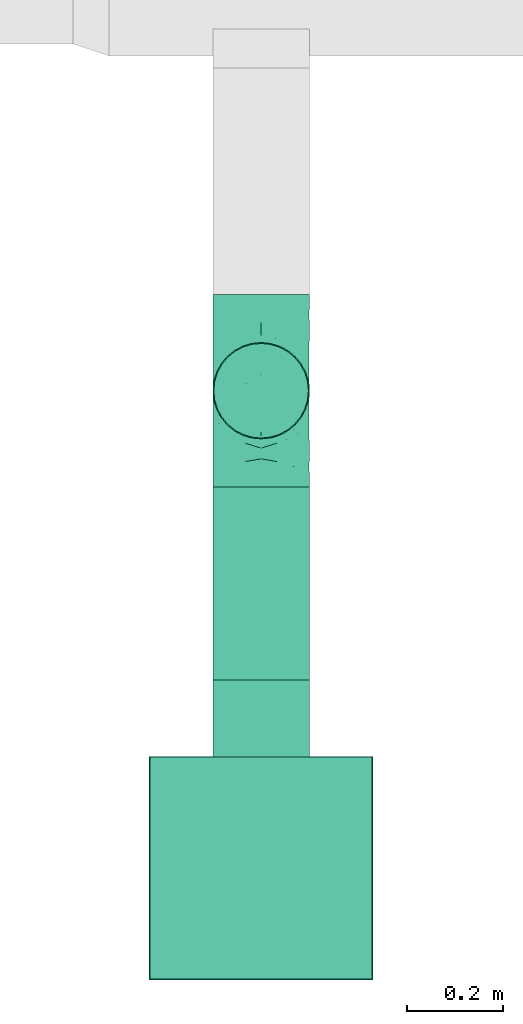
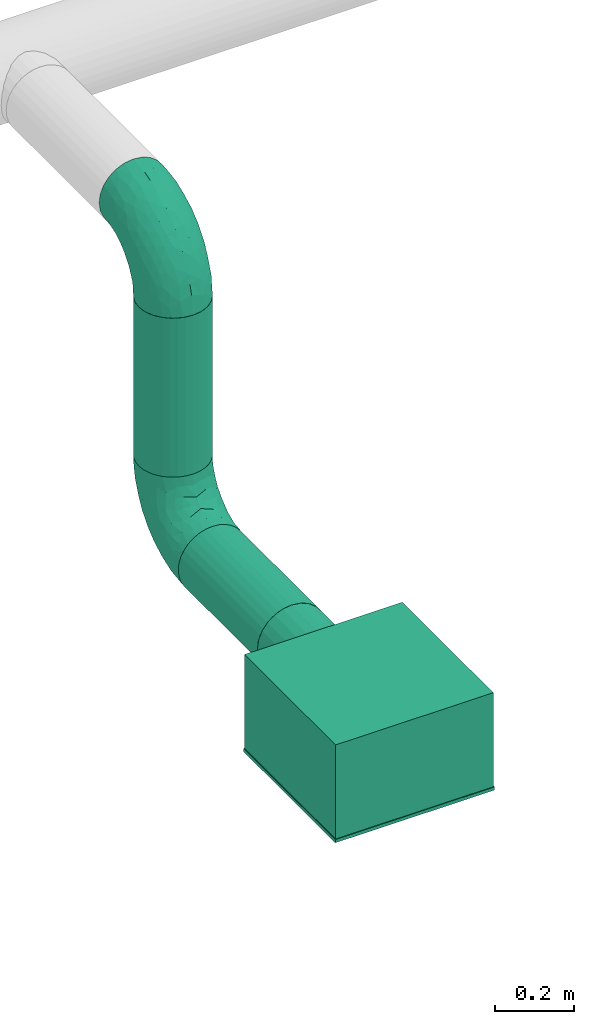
# One storey, part 7 of 31: 2 flow fittings, 2 flow segments, 1 flow terminal.
"""IFC2X3 building model written with IfcOpenShell, lengths in millimetres."""

from ifc_helpers import new_model, entity, si_unit, converted_unit, derived_unit, direction, frame, origin_with_axes, origin_2d_with_axis, place, context, subcontext, project, spatial, hollow_circle, extrude, open_shell, surface_model, source, transform, mapped, type_object, element, save


model = new_model("IFC2X3")

# Units and contexts
model_context = context("Model", 3, precision=0.01, world=frame((0.0, 4.29681676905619e-09, 0.0)), true_north=direction((4.01073788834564e-13, 1.0)))
plan_context = context("Plan", 3, precision=0.01, world=frame((0.0, 4.29681676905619e-09, 0.0)), true_north=direction((4.01073788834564e-13, 1.0)))
body_context = subcontext(model_context, "Body", "Model", "MODEL_VIEW")
ifc_project = project(units=[converted_unit("PLANEANGLEUNIT", "DEGREE", entity("IfcPositiveLengthMeasure", 0.0174532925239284), si_unit("PLANEANGLEUNIT", "RADIAN"), dimensions=[0, 0, 0, 0, 0, 0, 0]), si_unit("AREAUNIT", "SQUARE_METRE"), si_unit("LENGTHUNIT", "METRE", prefix="MILLI"), si_unit("MASSUNIT", "GRAM", prefix="KILO"), si_unit("POWERUNIT", "WATT"), si_unit("PRESSUREUNIT", "PASCAL", prefix="KILO"), si_unit("FORCEUNIT", "NEWTON", prefix="KILO"), si_unit("ELECTRICVOLTAGEUNIT", "VOLT"), si_unit("ELECTRICCURRENTUNIT", "AMPERE"), si_unit("THERMODYNAMICTEMPERATUREUNIT", "DEGREE_CELSIUS"), si_unit("TIMEUNIT", "SECOND"), si_unit("VOLUMEUNIT", "CUBIC_METRE"), derived_unit("LINEARVELOCITYUNIT", [(si_unit("LENGTHUNIT", "METRE"), 1), (si_unit("TIMEUNIT", "SECOND"), -1)]), derived_unit("VOLUMETRICFLOWRATEUNIT", [(si_unit("VOLUMEUNIT", "CUBIC_METRE"), 1), (si_unit("TIMEUNIT", "SECOND"), -1)]), derived_unit("THERMALTRANSMITTANCEUNIT", [(si_unit("POWERUNIT", "WATT"), 1), (si_unit("THERMODYNAMICTEMPERATUREUNIT", "KELVIN"), -1), (si_unit("AREAUNIT", "SQUARE_METRE"), -1)]), derived_unit("SOUNDPRESSUREUNIT", [(si_unit("PRESSUREUNIT", "PASCAL"), 1)])], contexts=[model_context, plan_context])

# Site, building, storey
site_placement = place(None, frame((0.0, -4.29681676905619e-09, 0.0), z_axis=(0.0, 0.0, 1.0), x_axis=(1.0, 0.0, 0.0)))
site = spatial("IfcSite", under=ifc_project, at=site_placement, CompositionType="ELEMENT")
building_placement = place(site_placement, frame((0.0, 4.29681676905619e-09, 0.0), z_axis=(0.0, 0.0, 1.0), x_axis=(1.0, 0.0, 0.0)))
building = spatial("IfcBuilding", under=site, at=building_placement, Name="mc-building", CompositionType="ELEMENT")
storey_placement = place(building_placement, frame((0.0, 0.0, 210900.0), z_axis=(0.0, 0.0, 1.0), x_axis=(1.0, 0.0, 0.0)))
storey = spatial("IfcBuildingStorey", under=building, at=storey_placement, Name="Nivå F", CompositionType="ELEMENT", Elevation=210900.0)

# Flow fittings
duct_fitting_type = type_object("IfcDuctFittingType", Name="magicirc_elbow_full_radius_001", PredefinedType="BEND")
shared_shape_1 = source(origin_with_axes(), body_context, "Body", "SurfaceModel", [
    surface_model("IfcShellBasedSurfaceModel", [(-200.0, 25.8819, -96.59259), (-200.0, 0.0, -100.0), (-200.0, 96.59259, -25.8819), (-200.0, 50.0, -86.60254), (-200.0, 70.71068, -70.71068), (-200.0, 86.60254, -50.0), (-200.0, 100.0, 0.0), (-200.0, -70.71068, -70.71068), (-200.0, -50.0, -86.60254), (-200.0, -25.8819, -96.59259), (-200.0, -86.60254, -50.0), (-200.0, -96.59259, -25.8819), (-200.0, -96.59259, 25.8819), (-200.0, -100.0, 0.0), (-200.0, 86.60254, 50.0), (-200.0, 96.59259, 25.8819), (-200.0, -50.0, 86.60254), (-200.0, 25.8819, 96.59259), (-200.0, 50.0, 86.60254), (-200.0, 70.71068, 70.71068), (-200.0, -86.60254, 50.0), (-200.0, -70.71068, 70.71068), (-200.0, -25.8819, 96.59259), (-200.0, 0.0, 100.0), (-25.8819, 200.0, -96.59259), (96.59259, 200.0, 25.8819), (0.0, 200.0, -100.0), (-70.71068, 200.0, -70.71068), (-50.0, 200.0, -86.60254), (-86.60254, 200.0, -50.0), (70.71068, 200.0, -70.71068), (25.8819, 200.0, -96.59259), (50.0, 200.0, -86.60254), (96.59259, 200.0, -25.8819), (86.60254, 200.0, -50.0), (100.0, 200.0, 0.0), (-96.59259, 200.0, -25.8819), (-100.0, 200.0, 0.0), (-96.59259, 200.0, 25.8819), (-86.60254, 200.0, 50.0), (-50.0, 200.0, 86.60254), (-25.8819, 200.0, 96.59259), (-70.71068, 200.0, 70.71068), (50.0, 200.0, 86.60254), (70.71068, 200.0, 70.71068), (86.60254, 200.0, 50.0), (25.8819, 200.0, 96.59259), (0.0, 200.0, 100.0), (-170.28345, -80.453, 57.20341), (-151.30505, -62.14272, 74.57098), (-141.47291, -94.23558, 0.0), (-152.48501, -91.13434, 31.26682), (-175.16033, -97.5535, 0.0), (49.44088, 33.32893, 0.0), (56.65771, 47.69157, 17.5513), (30.78646, 10.59845, 0.0), (-115.72747, -62.79147, 65.02361), (-110.24866, -47.46346, 77.46704), (-131.78251, -77.03572, 52.17296), (-155.84565, 81.73243, 67.52503), (-165.38682, 59.81194, 83.11685), (-153.53621, -15.46231, 97.89391), (-99.34826, -9.37473, 94.63603), (-109.04028, 19.17637, 99.9709), (-11.41001, 147.58509, 99.90915), (-66.65717, -62.98288, 31.65851), (-19.65477, -37.28433, 19.69829), (-42.80044, -46.52394, 38.2888), (-76.76667, -58.58513, 50.26593), (-107.75087, -80.71677, 29.70656), (-170.73585, -40.65955, 90.5511), (-172.81551, 101.70087, 19.84455), (-146.92494, 108.70969, 32.98808), (-141.22148, 119.0983, 0.0), (-63.14521, 144.11081, 85.31109), (-80.51529, 161.84448, 66.62709), (-89.41257, 123.59035, 75.49114), (-59.28706, 175.69502, 82.02298), (-159.40173, 10.55746, 99.80411), (77.16386, 85.19497, 0.0), (62.56216, 67.38452, 33.69402), (-101.70087, 172.81551, 19.84455), (-93.96462, 171.01, 43.43771), (-171.01, 93.96462, 43.43771), (-151.20277, 37.27353, 95.35782), (-100.76094, 141.8163, 52.73949), (-123.065, 123.065, 41.02461), (-115.71118, 115.71117, 58.92154), (-108.70969, 146.92494, 32.98808), (-169.09831, 104.89435, 0.0), (-126.3807, 68.32629, 87.09158), (-3.53309, 67.51081, 92.91692), (-29.40722, 29.40721, 91.09367), (0.78973, 37.96478, 81.45071), (-60.00062, -0.36077, 89.58959), (-67.88209, 21.58789, 97.54896), (62.32031, 154.13138, 74.86163), (-141.8163, 100.76094, 52.73949), (91.13434, 152.48501, 31.26682), (80.453, 170.28345, 57.20341), (-18.49849, -12.30744, 60.90175), (8.80323, 19.6267, 65.08263), (-25.42255, 3.46809, 77.76258), (-74.03921, 114.7783, 87.77152), (-87.24231, 87.48345, 91.33971), (-52.29396, 97.96814, 97.88047), (97.5535, 175.16033, 0.0), (15.66986, 158.34417, 98.04921), (39.67143, 143.40046, 88.65468), (-104.89435, 169.09831, 0.0), (-119.0983, 141.22148, 0.0), (-79.31604, 55.69606, 99.29154), (50.31225, 117.34231, 77.16335), (77.03572, 131.78251, 52.17296), (-113.91527, 94.9934, 76.65605), (64.93177, 92.97178, 51.47516), (47.72556, 81.69016, 66.67609), (40.01044, 43.97718, 50.57869), (-17.45546, -26.87288, 41.03287), (-127.86769, 127.86769, 19.95139), (-59.26195, -63.30237, 0.0), (-33.32893, -49.44088, 0.0), (-15.13235, 108.44666, 99.8016), (9.03102, 110.97634, 96.23014), (-35.35458, 66.6809, 99.29493), (-36.40308, 160.4143, 94.8486), (-32.26105, 126.83648, 98.54453), (5.63455, -13.55537, 26.35365), (8.74012, 0.17058, 45.65263), (46.65777, 40.2329, 34.44568), (80.66195, 107.48302, 29.60457), (85.69972, 113.33393, 0.0), (28.17336, 90.6004, 84.77214), (-103.20436, 61.65595, 95.02282), (-132.43349, -38.40548, 87.83865), (-113.33393, -85.69972, 0.0), (-87.1495, -28.94235, 83.35483), (-47.7214, -39.47514, 54.58142), (-52.3084, 125.73797, 93.79051), (25.86889, 52.68176, 71.74074), (63.30237, 59.26195, 0.0), (94.23558, 141.47291, 0.0), (29.54521, 14.24018, 30.32032), (-85.19497, -77.16386, 0.0), (-50.98503, -24.63183, 71.83876), (-81.69017, -47.72556, 66.67609), (-10.59845, -30.78646, 0.0), (12.13203, -12.13203, 0.0), (-160.4143, 36.40307, -94.8486), (-126.83648, 32.26105, -98.54453), (-147.58509, 11.41001, -99.90915), (-59.81194, 165.3868, -83.11686), (-158.34417, -15.66986, -98.0492), (-110.97634, -9.03102, -96.23014), (12.30745, 18.4985, -60.90175), (-19.62669, -8.80321, -65.08265), (-3.46809, 25.42255, -77.76258), (-114.7783, 74.03921, -87.77153), (-87.48346, 87.2423, -91.33971), (-97.96814, 52.29396, -97.88047), (-172.81551, 101.70087, -19.84455), (13.55537, -5.63454, -26.35364), (-0.17055, -8.74011, -45.6526), (26.87289, 17.45547, -41.03286), (-146.92494, 108.70969, -32.98808), (-47.69157, -56.65771, -17.5513), (-123.06501, 123.065, -41.02461), (-127.86769, 127.86769, -19.95139), (-108.70969, 146.92494, -32.98808), (-175.69502, 59.28706, -82.02298), (-161.84448, 80.51529, -66.62709), (-144.11081, 63.14521, -85.31109), (62.98288, 66.65718, -31.65851), (-81.73243, 155.84565, -67.52503), (-141.8163, 100.76093, -52.73949), (-171.01, 93.96462, -43.43771), (-55.69606, 79.31604, -99.29154), (-66.68089, 35.35458, -99.29493), (-152.48501, -91.13434, -31.26682), (-170.28345, -80.45301, -57.20341), (-92.97178, -64.93177, -51.47516), (-81.69017, -47.72556, -66.67608), (-43.97716, -40.01043, -50.57869), (-10.55746, 159.40173, -99.80411), (15.46231, 153.53621, -97.89391), (-154.13138, -62.32031, -74.86163), (-143.40046, -39.67143, -88.65468), (-37.27353, 151.20276, -95.35782), (-107.48302, -80.66195, -29.60457), (0.36078, 60.00061, -89.58959), (-29.40721, 29.40721, -91.09366), (-21.58789, 67.88208, -97.54896), (-100.76094, 141.8163, -52.73949), (-93.96462, 171.01, -43.43771), (-101.70087, 172.81551, -19.84455), (-19.17637, 109.04027, -99.9709), (-123.59035, 89.41257, -75.49114), (62.14272, 151.30505, -74.57098), (40.65955, 170.73585, -90.5511), (46.52395, 42.80044, -38.28881), (37.28435, 19.6548, -19.69829), (-68.3263, 126.38069, -87.09158), (-67.51081, 3.53309, -92.91692), (-37.96476, -0.78971, -81.45071), (58.58512, 76.76664, -50.26592), (-67.38452, -62.56216, -33.69402), (80.45301, 170.28345, -57.20341), (80.71677, 107.75087, -29.70656), (38.40548, 132.43348, -87.83865), (62.79147, 115.72747, -65.02361), (47.46347, 110.24866, -77.46703), (91.13434, 152.48501, -31.26682), (-40.2329, -46.65777, -34.44568), (-90.60041, -28.17337, -84.77214), (77.03572, 131.78251, -52.17296), (9.37473, 99.34825, -94.63603), (-117.34231, -50.31225, -77.16335), (-131.78251, -77.03572, -52.17296), (-94.99341, 113.91526, -76.65605), (-108.44666, 15.13234, -99.8016), (-61.65596, 103.20434, -95.02282), (28.94235, 87.1495, -83.35483), (39.47513, 47.72139, -54.58143), (-125.73797, 52.30839, -93.79051), (-52.68177, -25.86889, -71.74075), (-115.71118, 115.71117, -58.92154), (-14.24018, -29.54521, -30.32033), (24.63182, 50.98504, -71.83876), (47.72556, 81.69017, -66.67609)], [open_shell([[[0, 1, 2]], [[3, 0, 4]], [[2, 5, 4]], [[0, 2, 4]], [[6, 1, 7]], [[8, 7, 9]], [[7, 1, 9]], [[10, 11, 7]], [[12, 11, 13]], [[12, 7, 11]], [[2, 1, 6]], [[14, 15, 6]], [[16, 14, 7]], [[14, 17, 18]], [[19, 14, 18]], [[17, 14, 16]], [[20, 21, 12]], [[16, 12, 21]], [[16, 22, 17]], [[16, 7, 12]], [[17, 22, 23]], [[14, 6, 7]], [[24, 25, 26]], [[27, 24, 28]], [[25, 27, 29]], [[24, 27, 25]], [[30, 26, 25]], [[31, 30, 32]], [[31, 26, 30]], [[30, 33, 34]], [[35, 33, 25]], [[33, 30, 25]], [[25, 29, 36]], [[37, 38, 39]], [[25, 37, 39]], [[40, 41, 39]], [[40, 39, 42]], [[43, 39, 41]], [[25, 44, 45]], [[44, 25, 43]], [[41, 46, 43]], [[43, 25, 39]], [[47, 46, 41]], [[37, 25, 36]], [[21, 48, 49]], [[50, 51, 52]], [[53, 54, 55]], [[56, 57, 49]], [[48, 51, 58]], [[59, 19, 60]], [[61, 62, 63]], [[47, 41, 64]], [[65, 66, 67]], [[68, 69, 65]], [[16, 21, 49]], [[19, 18, 60]], [[16, 70, 22]], [[71, 72, 73]], [[74, 75, 76]], [[77, 40, 42]], [[19, 59, 14]], [[23, 78, 17]], [[54, 79, 80]], [[38, 81, 82]], [[70, 61, 22]], [[21, 20, 48]], [[83, 15, 14]], [[83, 72, 71]], [[84, 18, 17]], [[6, 15, 71]], [[85, 86, 87]], [[85, 82, 88]], [[71, 73, 89]], [[22, 61, 23]], [[90, 60, 84]], [[91, 92, 93]], [[65, 67, 68]], [[94, 92, 95]], [[43, 96, 44]], [[97, 72, 83]], [[25, 45, 98]], [[44, 99, 45]], [[75, 42, 39]], [[100, 101, 102]], [[103, 104, 105]], [[98, 106, 25]], [[46, 107, 108]], [[108, 96, 43]], [[109, 110, 81]], [[104, 111, 105]], [[112, 113, 96]], [[98, 45, 99]], [[114, 59, 90]], [[108, 43, 46]], [[115, 116, 117]], [[88, 81, 110]], [[67, 66, 118]], [[110, 73, 119]], [[109, 81, 37]], [[95, 111, 63]], [[120, 121, 65]], [[86, 119, 72]], [[122, 123, 64]], [[111, 124, 105]], [[75, 74, 77]], [[64, 125, 126]], [[127, 128, 118]], [[80, 129, 54]], [[41, 40, 125]], [[125, 64, 41]], [[123, 107, 64]], [[98, 130, 131]], [[132, 108, 123]], [[47, 107, 46]], [[78, 23, 61]], [[20, 12, 51]], [[133, 63, 111]], [[130, 98, 113]], [[115, 117, 80]], [[82, 39, 38]], [[75, 85, 76]], [[62, 61, 134]], [[78, 63, 84]], [[56, 49, 58]], [[70, 49, 134]], [[51, 12, 52]], [[51, 135, 69]], [[115, 130, 113]], [[82, 81, 88]], [[62, 136, 94]], [[62, 94, 95]], [[67, 118, 137]], [[69, 58, 51]], [[77, 125, 40]], [[126, 138, 105]], [[112, 96, 108]], [[99, 96, 113]], [[117, 116, 139]], [[66, 127, 118]], [[92, 102, 93]], [[92, 94, 102]], [[63, 78, 61]], [[84, 17, 78]], [[64, 107, 47]], [[108, 107, 123]], [[84, 60, 18]], [[59, 60, 90]], [[87, 114, 76]], [[104, 103, 114]], [[114, 87, 97]], [[104, 114, 90]], [[63, 133, 84]], [[138, 103, 105]], [[90, 133, 104]], [[63, 62, 95]], [[91, 124, 92]], [[122, 64, 126]], [[92, 124, 95]], [[111, 95, 124]], [[140, 79, 54]], [[131, 141, 98]], [[88, 86, 85]], [[75, 39, 82]], [[76, 85, 87]], [[75, 82, 85]], [[14, 59, 83]], [[97, 87, 86]], [[83, 59, 97]], [[114, 97, 59]], [[117, 142, 129]], [[65, 69, 143]], [[136, 62, 134]], [[102, 101, 93]], [[144, 94, 136]], [[137, 100, 144]], [[57, 136, 134]], [[136, 145, 144]], [[101, 139, 93]], [[91, 132, 123]], [[93, 139, 132]], [[91, 123, 122]], [[93, 132, 91]], [[132, 116, 112]], [[144, 100, 102]], [[128, 100, 118]], [[144, 102, 94]], [[137, 144, 145]], [[137, 145, 68]], [[100, 137, 118]], [[56, 68, 145]], [[69, 68, 58]], [[101, 128, 117]], [[132, 139, 116]], [[101, 117, 139]], [[129, 80, 117]], [[68, 67, 137]], [[65, 143, 120]], [[127, 146, 147]], [[55, 127, 147]], [[66, 146, 127]], [[128, 127, 142]], [[117, 128, 142]], [[100, 128, 101]], [[138, 125, 74]], [[122, 105, 124]], [[105, 122, 126]], [[91, 122, 124]], [[125, 138, 126]], [[138, 74, 103]], [[74, 76, 103]], [[114, 103, 76]], [[132, 112, 108]], [[112, 116, 115]], [[12, 13, 52]], [[106, 98, 141]], [[106, 35, 25]], [[37, 81, 38]], [[88, 110, 119]], [[97, 86, 72]], [[72, 119, 73]], [[88, 119, 86]], [[6, 71, 89]], [[83, 71, 15]], [[75, 77, 42]], [[125, 77, 74]], [[49, 70, 16]], [[61, 70, 134]], [[51, 48, 20]], [[49, 48, 58]], [[96, 99, 44]], [[98, 99, 113]], [[80, 79, 130]], [[130, 115, 80]], [[112, 115, 113]], [[68, 56, 58]], [[57, 56, 145]], [[136, 57, 145]], [[49, 57, 134]], [[65, 121, 66]], [[127, 55, 142]], [[84, 133, 90]], [[111, 104, 133]], [[130, 79, 131]], [[135, 51, 50]], [[135, 143, 69]], [[142, 55, 54]], [[142, 54, 129]], [[140, 54, 53]], [[66, 121, 146]], [[148, 149, 150]], [[28, 151, 27]], [[152, 150, 153]], [[154, 155, 156]], [[150, 0, 148]], [[157, 158, 159]], [[89, 160, 6]], [[161, 162, 163]], [[164, 160, 73]], [[121, 165, 146]], [[166, 167, 168]], [[169, 170, 171]], [[140, 53, 172]], [[27, 173, 29]], [[174, 175, 164]], [[176, 177, 159]], [[178, 10, 179]], [[180, 181, 182]], [[178, 52, 11]], [[183, 26, 184]], [[185, 8, 186]], [[0, 3, 148]], [[9, 186, 8]], [[187, 28, 24]], [[31, 184, 26]], [[178, 11, 10]], [[179, 10, 7]], [[178, 188, 135]], [[7, 8, 185]], [[152, 186, 9]], [[189, 190, 191]], [[158, 176, 159]], [[167, 73, 110]], [[192, 168, 193]], [[166, 168, 192]], [[193, 36, 29]], [[36, 194, 37]], [[191, 176, 195]], [[171, 170, 196]], [[194, 193, 168]], [[160, 175, 2]], [[197, 32, 30]], [[198, 184, 31]], [[173, 27, 151]], [[169, 3, 4]], [[26, 183, 24]], [[199, 200, 163]], [[187, 201, 151]], [[202, 190, 203]], [[31, 32, 198]], [[199, 172, 200]], [[172, 199, 204]], [[165, 143, 205]], [[30, 34, 206]], [[207, 172, 204]], [[89, 73, 160]], [[198, 197, 208]], [[9, 1, 152]], [[209, 210, 197]], [[170, 4, 5]], [[211, 106, 141]], [[205, 212, 165]], [[213, 186, 153]], [[211, 214, 206]], [[34, 33, 211]], [[215, 195, 184]], [[194, 168, 110]], [[1, 0, 150]], [[216, 217, 185]], [[194, 110, 109]], [[218, 173, 201]], [[219, 153, 150]], [[220, 195, 176]], [[188, 178, 217]], [[180, 182, 205]], [[175, 5, 2]], [[170, 174, 196]], [[206, 197, 30]], [[209, 197, 214]], [[215, 184, 208]], [[183, 195, 187]], [[211, 33, 106]], [[211, 131, 207]], [[180, 188, 217]], [[33, 35, 106]], [[215, 221, 189]], [[215, 189, 191]], [[199, 163, 222]], [[207, 214, 211]], [[169, 148, 3]], [[149, 223, 159]], [[216, 185, 186]], [[179, 185, 217]], [[182, 181, 224]], [[200, 161, 163]], [[190, 156, 203]], [[190, 189, 156]], [[195, 183, 184]], [[187, 24, 183]], [[150, 152, 1]], [[186, 152, 153]], [[187, 151, 28]], [[173, 151, 201]], [[225, 218, 196]], [[158, 157, 218]], [[218, 225, 192]], [[158, 218, 201]], [[195, 220, 187]], [[223, 157, 159]], [[201, 220, 158]], [[195, 215, 191]], [[202, 177, 190]], [[219, 150, 149]], [[190, 177, 191]], [[176, 191, 177]], [[120, 143, 165]], [[135, 50, 178]], [[164, 166, 174]], [[170, 5, 175]], [[196, 174, 225]], [[170, 175, 174]], [[29, 173, 193]], [[192, 225, 166]], [[193, 173, 192]], [[218, 192, 173]], [[182, 226, 212]], [[172, 207, 79]], [[221, 215, 208]], [[156, 155, 203]], [[227, 189, 221]], [[222, 154, 227]], [[210, 221, 208]], [[221, 228, 227]], [[155, 224, 203]], [[202, 213, 153]], [[203, 224, 213]], [[202, 153, 219]], [[203, 213, 202]], [[213, 181, 216]], [[227, 154, 156]], [[162, 154, 163]], [[227, 156, 189]], [[222, 227, 228]], [[222, 228, 204]], [[154, 222, 163]], [[209, 204, 228]], [[207, 204, 214]], [[155, 162, 182]], [[213, 224, 181]], [[155, 182, 224]], [[212, 205, 182]], [[204, 199, 222]], [[172, 79, 140]], [[161, 55, 147]], [[146, 161, 147]], [[200, 55, 161]], [[162, 161, 226]], [[182, 162, 226]], [[154, 162, 155]], [[223, 148, 171]], [[219, 159, 177]], [[159, 219, 149]], [[202, 219, 177]], [[148, 223, 149]], [[223, 171, 157]], [[171, 196, 157]], [[218, 157, 196]], [[213, 216, 186]], [[216, 181, 180]], [[52, 178, 50]], [[52, 13, 11]], [[175, 160, 164]], [[6, 160, 2]], [[174, 166, 225]], [[167, 164, 73]], [[168, 167, 110]], [[164, 167, 166]], [[37, 194, 109]], [[193, 194, 36]], [[170, 169, 4]], [[148, 169, 171]], [[197, 198, 32]], [[184, 198, 208]], [[211, 206, 34]], [[197, 206, 214]], [[185, 179, 7]], [[178, 179, 217]], [[205, 143, 188]], [[188, 180, 205]], [[216, 180, 217]], [[204, 209, 214]], [[210, 209, 228]], [[221, 210, 228]], [[197, 210, 208]], [[172, 53, 200]], [[161, 146, 226]], [[187, 220, 201]], [[176, 158, 220]], [[188, 143, 135]], [[131, 211, 141]], [[131, 79, 207]], [[226, 146, 165]], [[226, 165, 212]], [[120, 165, 121]], [[200, 53, 55]]])]),
])
for number, where, z_axis, x_axis, name in (
    (1, (721702.17013, 436585.99129, 2965.0), (1.0, 0.0, 0.0), (0.0, 1.0, 0.0), "magicirc_elbow_full_radius_001"),
    (2, (721702.17013, 436585.99129, 3855.0), (-1.0, 0.0, 0.0), (0.0, 0.0, 1.0), "magicirc_elbow_full_radius_001"),
):
    element("IfcFlowFitting", number, at=place(storey_placement, frame(where, z_axis=z_axis, x_axis=x_axis)), inside=storey, type_object=duct_fitting_type, Name=name, context=body_context, shape_type="MappedRepresentation", body=[
        mapped(shared_shape_1, transform((0.0, 0.0, 0.0), scale=1.0)),
    ])

# Flow segments
duct_segment_type = type_object("IfcDuctSegmentType", Name="KK001T - Spiro kanaler, Forsinket stål", PredefinedType="RIGIDSEGMENT")
shared_shape_2 = source(origin_with_axes(), body_context, "Body", "SweptSolid", [
    extrude(hollow_circle(Radius=100.0, WallThickness=2.0, at=origin_2d_with_axis()), frame((0.0, 0.0, 0.0), z_axis=(1.0, 0.0, 0.0), x_axis=(0.0, 1.0, 0.0)), (0.0, 0.0, 1.0), 400.0),
])
flow_segment_1_placement = place(storey_placement, frame((721702.17013, 435985.99129, 2965.0), z_axis=(0.0, 0.0, 1.0), x_axis=(0.0, 1.0, 0.0)))
element("IfcFlowSegment", 3, at=flow_segment_1_placement, inside=storey, type_object=duct_segment_type, Name="KK001T - Spiro kanaler, Forsinket stål", context=body_context, shape_type="MappedRepresentation", body=[
    mapped(shared_shape_2, transform((0.0, 0.0, 0.0), scale=1.0)),
])
shared_shape_3 = source(origin_with_axes(), body_context, "Body", "SweptSolid", [
    extrude(hollow_circle(Radius=100.0, WallThickness=2.0, at=origin_2d_with_axis()), frame((0.0, 0.0, 0.0), z_axis=(1.0, 0.0, 0.0), x_axis=(0.0, 1.0, 0.0)), (0.0, 0.0, 1.0), 490.0),
])
flow_segment_2_placement = place(storey_placement, frame((721702.17013, 436585.99129, 3165.0), z_axis=(0.0, -1.0, 0.0), x_axis=(0.0, 0.0, 1.0)))
element("IfcFlowSegment", 4, at=flow_segment_2_placement, inside=storey, type_object=duct_segment_type, Name="KK001T - Spiro kanaler, Forsinket stål", context=body_context, shape_type="MappedRepresentation", body=[
    mapped(shared_shape_3, transform((0.0, 0.0, 0.0), scale=1.0)),
])

# Flow terminal
air_terminal_type = type_object("IfcAirTerminalType", Name="NS19-H-S-2-200 - 4-way", PredefinedType="NOTDEFINED")
shared_shape_4 = source(origin_with_axes(), body_context, "Body", "SurfaceModel", [
    surface_model("IfcShellBasedSurfaceModel", [(-231.99999, 231.99999, 0.0), (-231.99999, -231.99999, 0.0), (231.99999, -231.99999, 0.0), (231.99999, 231.99999, 0.0), (231.99999, 231.99999, -10.0), (231.99999, -231.99999, -10.0), (-231.99999, -231.99999, -10.0), (-231.99999, 231.99999, -10.0), (-230.0, 230.0, 289.99999), (-230.0, -230.0, 289.99999), (230.0, -230.0, 289.99999), (230.0, 230.0, 289.99999), (230.0, 230.0, 0.0), (230.0, -230.0, 0.0), (-230.0, -230.0, 0.0), (-230.0, 230.0, 0.0), (-230.0, 50.0, 78.39746), (-230.0, 70.71068, 94.28932), (-230.0, 49.9, 78.57067), (-230.0, 25.83014, 68.6006), (-230.0, 0.0, 65.2), (-230.0, 25.8819, 68.40742), (-230.0, 0.0, 65.0), (-230.0, 70.56926, 94.43075), (-230.0, 96.59259, 139.1181), (-230.0, 99.8, 164.99999), (-230.0, 96.39939, 139.16986), (-230.0, 100.0, 164.99999), (-230.0, 86.60254, 115.0), (-230.0, 86.42934, 115.1), (-230.0, -25.83014, 68.6006), (-230.0, -25.8819, 68.40742), (-230.0, -49.9, 78.57067), (-230.0, -70.71068, 94.28932), (-230.0, -50.0, 78.39746), (-230.0, -70.56926, 94.43075), (-230.0, -86.42934, 115.1), (-230.0, -86.60254, 115.0), (-230.0, -96.39939, 139.16986), (-230.0, -96.59259, 139.1181), (-230.0, -99.8, 164.99999), (-230.0, -100.0, 164.99999), (-230.0, 96.59259, 190.8819), (-230.0, 96.39939, 190.83014), (-230.0, 86.42934, 214.9), (-230.0, 86.60254, 214.99999), (-230.0, 70.56926, 235.56925), (-230.0, 70.71068, 235.71069), (-230.0, 50.0, 251.60254), (-230.0, 49.9, 251.42933), (-230.0, 25.83014, 261.3994), (-230.0, 25.8819, 261.59259), (-230.0, 0.0, 264.80001), (-230.0, 0.0, 264.99999), (-230.0, -86.60254, 214.99999), (-230.0, -86.42934, 214.9), (-230.0, -70.71068, 235.71069), (-230.0, -70.56926, 235.56925), (-230.0, -96.59259, 190.8819), (-230.0, -96.39939, 190.83014), (-230.0, -25.83014, 261.3994), (-230.0, -25.8819, 261.59259), (-230.0, -49.9, 251.42933), (-230.0, -50.0, 251.60254), (-390.0, 50.0, 251.60254), (-390.0, 70.71068, 235.71069), (-390.0, 49.9, 251.42933), (-390.0, 25.83014, 261.3994), (-390.0, 0.0, 264.80001), (-390.0, 25.8819, 261.59259), (-390.0, 0.0, 264.99999), (-390.0, 70.56926, 235.56925), (-390.0, 96.59259, 190.8819), (-390.0, 99.8, 164.99999), (-390.0, 96.39939, 190.83014), (-390.0, 100.0, 164.99999), (-390.0, 86.60254, 214.99999), (-390.0, 86.42934, 214.9), (-390.0, -25.83014, 261.3994), (-390.0, -25.8819, 261.59259), (-390.0, -49.9, 251.42933), (-390.0, -70.71068, 235.71069), (-390.0, -50.0, 251.60254), (-390.0, -70.56926, 235.56925), (-390.0, -86.42934, 214.9), (-390.0, -86.60254, 214.99999), (-390.0, -96.39939, 190.83014), (-390.0, -96.59259, 190.8819), (-390.0, -99.8, 164.99999), (-390.0, -100.0, 164.99999), (-390.0, 96.59259, 139.1181), (-390.0, 96.39939, 139.16986), (-390.0, 86.42934, 115.1), (-390.0, 86.60254, 115.0), (-390.0, 70.56926, 94.43075), (-390.0, 70.71068, 94.28932), (-390.0, 50.0, 78.39746), (-390.0, 49.9, 78.57067), (-390.0, 25.83014, 68.6006), (-390.0, 25.8819, 68.40742), (-390.0, 0.0, 65.2), (-390.0, 0.0, 65.0), (-390.0, -86.60254, 115.0), (-390.0, -86.42934, 115.1), (-390.0, -70.71068, 94.28932), (-390.0, -70.56926, 94.43075), (-390.0, -96.59259, 139.1181), (-390.0, -96.39939, 139.16986), (-390.0, -25.83014, 68.6006), (-390.0, -25.8819, 68.40742), (-390.0, -49.9, 78.57067), (-390.0, -50.0, 78.39746)], [open_shell([[[0, 1, 2]], [[2, 3, 0]], [[4, 5, 6]], [[6, 7, 4]], [[2, 1, 6]], [[6, 5, 2]], [[3, 2, 5]], [[5, 4, 3]], [[0, 3, 4]], [[4, 7, 0]], [[1, 0, 7]], [[7, 6, 1]], [[8, 9, 10]], [[10, 11, 8]], [[12, 13, 14]], [[14, 15, 12]], [[10, 9, 13]], [[14, 13, 9]], [[11, 10, 12]], [[13, 12, 10]], [[8, 11, 15]], [[12, 15, 11]], [[9, 8, 14]], [[15, 14, 8]], [[16, 17, 18]], [[16, 18, 19]], [[20, 21, 19]], [[21, 20, 22]], [[19, 21, 16]], [[18, 17, 23]], [[24, 25, 26]], [[25, 24, 27]], [[24, 26, 28]], [[23, 28, 29]], [[28, 23, 17]], [[29, 28, 26]], [[22, 30, 31]], [[31, 30, 32]], [[33, 34, 35]], [[32, 34, 31]], [[32, 35, 34]], [[22, 20, 30]], [[36, 37, 33]], [[37, 36, 38]], [[36, 33, 35]], [[39, 38, 40]], [[38, 39, 37]], [[39, 40, 41]], [[27, 42, 43]], [[43, 42, 44]], [[44, 45, 46]], [[45, 44, 42]], [[46, 45, 47]], [[47, 48, 49]], [[49, 48, 50]], [[50, 51, 52]], [[51, 50, 48]], [[52, 51, 53]], [[49, 46, 47]], [[54, 55, 56]], [[56, 55, 57]], [[55, 54, 58]], [[41, 59, 58]], [[58, 59, 55]], [[41, 40, 59]], [[60, 53, 61]], [[60, 61, 62]], [[57, 63, 56]], [[57, 62, 63]], [[63, 62, 61]], [[52, 53, 60]], [[43, 25, 27]], [[64, 65, 66]], [[64, 66, 67]], [[68, 69, 67]], [[69, 68, 70]], [[67, 69, 64]], [[66, 65, 71]], [[72, 73, 74]], [[73, 72, 75]], [[72, 74, 76]], [[71, 76, 77]], [[76, 71, 65]], [[77, 76, 74]], [[70, 78, 79]], [[79, 78, 80]], [[81, 82, 83]], [[80, 82, 79]], [[80, 83, 82]], [[70, 68, 78]], [[84, 85, 81]], [[85, 84, 86]], [[84, 81, 83]], [[87, 86, 88]], [[86, 87, 85]], [[87, 88, 89]], [[75, 90, 91]], [[91, 90, 92]], [[92, 93, 94]], [[93, 92, 90]], [[94, 93, 95]], [[95, 96, 97]], [[97, 96, 98]], [[98, 99, 100]], [[99, 98, 96]], [[100, 99, 101]], [[97, 94, 95]], [[102, 103, 104]], [[104, 103, 105]], [[103, 102, 106]], [[89, 107, 106]], [[106, 107, 103]], [[89, 88, 107]], [[108, 101, 109]], [[108, 109, 110]], [[105, 111, 104]], [[105, 110, 111]], [[111, 110, 109]], [[100, 101, 108]], [[91, 73, 75]], [[39, 106, 102]], [[104, 37, 102]], [[34, 111, 109]], [[104, 111, 33]], [[31, 109, 101]], [[106, 41, 89]], [[106, 39, 41]], [[102, 37, 39]], [[104, 33, 37]], [[34, 33, 111]], [[109, 31, 34]], [[101, 22, 31]], [[21, 99, 96]], [[95, 16, 96]], [[28, 93, 90]], [[95, 93, 17]], [[24, 90, 75]], [[99, 21, 22]], [[96, 16, 21]], [[95, 17, 16]], [[93, 28, 17]], [[24, 28, 90]], [[75, 27, 24]], [[99, 22, 101]], [[75, 72, 42]], [[48, 64, 69]], [[64, 47, 65]], [[51, 69, 70]], [[72, 45, 42]], [[42, 27, 75]], [[76, 47, 45]], [[76, 65, 47]], [[47, 64, 48]], [[69, 51, 48]], [[76, 45, 72]], [[70, 53, 51]], [[61, 79, 82]], [[81, 63, 82]], [[54, 85, 87]], [[81, 85, 56]], [[58, 87, 89]], [[79, 61, 53]], [[82, 63, 61]], [[81, 56, 63]], [[85, 54, 56]], [[58, 54, 87]], [[89, 41, 58]], [[79, 53, 70]], [[103, 107, 38]], [[103, 36, 105]], [[108, 110, 32]], [[35, 110, 105]], [[100, 108, 30]], [[88, 40, 107]], [[40, 38, 107]], [[38, 36, 103]], [[36, 35, 105]], [[110, 35, 32]], [[32, 30, 108]], [[30, 20, 100]], [[97, 98, 19]], [[97, 18, 94]], [[91, 92, 29]], [[23, 92, 94]], [[73, 91, 26]], [[20, 19, 98]], [[19, 18, 97]], [[18, 23, 94]], [[23, 29, 92]], [[91, 29, 26]], [[26, 25, 73]], [[100, 20, 98]], [[43, 74, 73]], [[67, 66, 49]], [[71, 46, 66]], [[68, 67, 50]], [[43, 44, 74]], [[73, 25, 43]], [[44, 46, 77]], [[46, 71, 77]], [[49, 66, 46]], [[49, 50, 67]], [[74, 44, 77]], [[50, 52, 68]], [[80, 78, 60]], [[80, 62, 83]], [[86, 84, 55]], [[57, 84, 83]], [[88, 86, 59]], [[52, 60, 78]], [[60, 62, 80]], [[62, 57, 83]], [[57, 55, 84]], [[86, 55, 59]], [[59, 40, 88]], [[68, 52, 78]]])]),
])
flow_terminal_placement = place(storey_placement, frame((721702.17013, 435595.96321, 2799.98813000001), z_axis=(0.0, 0.0, 1.0), x_axis=(0.0, -1.0, 0.0)))
element("IfcFlowTerminal", 5, at=flow_terminal_placement, inside=storey, type_object=air_terminal_type, Name="NS19-H-S-2-200 - 4-way", context=body_context, shape_type="MappedRepresentation", body=[
    mapped(shared_shape_4, transform((0.0, 0.0, 0.0), scale=1.0)),
])

save(model, "model.ifc")
